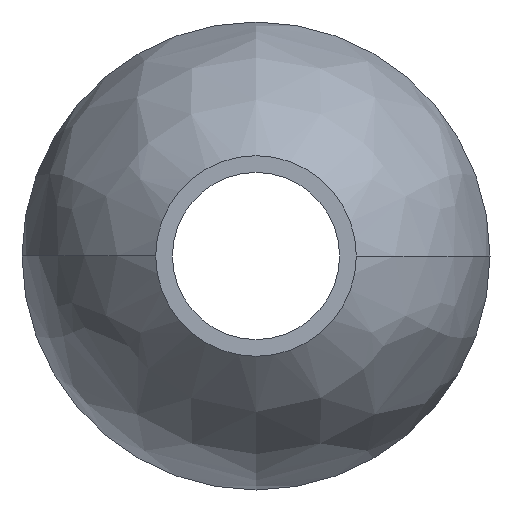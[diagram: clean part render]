
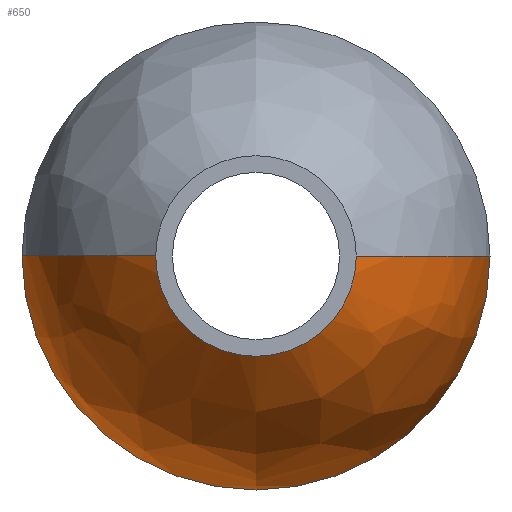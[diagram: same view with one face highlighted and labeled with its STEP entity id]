
A CAD part, front view. The second image highlights one B-rep face of the part: STEP entity #650.
In plain terms, the highlighted free-form (B-spline) face has degree [3, 3] with [5, 4] control points.
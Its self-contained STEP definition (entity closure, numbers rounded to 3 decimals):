
#7 = CARTESIAN_POINT ( 'NONE',  ( -1.4, 9.5, 0. ) ) ;
#15 = ORIENTED_EDGE ( 'NONE', *, *, #746, .F. ) ;
#22 = VERTEX_POINT ( 'NONE', #617 ) ;
#37 = CARTESIAN_POINT ( 'NONE',  ( -1.396, 9.201, 0. ) ) ;
#43 = AXIS2_PLACEMENT_3D ( 'NONE', #401, #219, #461 ) ;
#47 = DIRECTION ( 'NONE',  ( 0., 0., -1. ) ) ;
#53 = CARTESIAN_POINT ( 'NONE',  ( 0., 7.947, -0.6 ) ) ;
#55 = EDGE_CURVE ( 'NONE', #659, #482, #497, .T. ) ;
#59 = CIRCLE ( 'NONE', #598, 0.6 ) ;
#70 = CARTESIAN_POINT ( 'NONE',  ( -0.6, 7.947, 0. ) ) ;
#85 = VERTEX_POINT ( 'NONE', #489 ) ;
#94 = CARTESIAN_POINT ( 'NONE',  ( -0.6, 7.947, -1.2 ) ) ;
#96 = CARTESIAN_POINT ( 'NONE',  ( 1.396, 9.201, -2.793 ) ) ;
#127 = CARTESIAN_POINT ( 'NONE',  ( -1.25, 8.6, 0. ) ) ;
#138 = ORIENTED_EDGE ( 'NONE', *, *, #55, .T. ) ;
#152 = CARTESIAN_POINT ( 'NONE',  ( 0.6, 7.947, 0. ) ) ;
#154 = CARTESIAN_POINT ( 'NONE',  ( -1.4, 9.5, 0. ) ) ;
#207 = CARTESIAN_POINT ( 'NONE',  ( 1.4, 9.5, 0. ) ) ;
#214 = CARTESIAN_POINT ( 'NONE',  ( -0.846, 8.119, -1.691 ) ) ;
#216 = CARTESIAN_POINT ( 'NONE',  ( 1.4, 9.5, -2.8 ) ) ;
#219 = DIRECTION ( 'NONE',  ( 0., -1., 0. ) ) ;
#231 = CARTESIAN_POINT ( 'NONE',  ( 1.25, 8.6, 0. ) ) ;
#261 = AXIS2_PLACEMENT_3D ( 'NONE', #266, #734, #320 ) ;
#266 = CARTESIAN_POINT ( 'NONE',  ( 0., 7.947, 0. ) ) ;
#275 = CARTESIAN_POINT ( 'NONE',  ( 0.846, 8.119, 0. ) ) ;
#287 = CARTESIAN_POINT ( 'NONE',  ( 0., 9.5, -1.4 ) ) ;
#320 = DIRECTION ( 'NONE',  ( 0., 0., -1. ) ) ;
#333 = CARTESIAN_POINT ( 'NONE',  ( -1.25, 8.6, -2.499 ) ) ;
#334 = DIRECTION ( 'NONE',  ( 0., -1., 0. ) ) ;
#353 = FACE_OUTER_BOUND ( 'NONE', #683, .T. ) ;
#374 = CARTESIAN_POINT ( 'NONE',  ( -0.846, 8.119, 0. ) ) ;
#395 = EDGE_CURVE ( 'NONE', #659, #674, #417, .T. ) ;
#397 = CARTESIAN_POINT ( 'NONE',  ( 1.25, 8.6, 0. ) ) ;
#399 = ORIENTED_EDGE ( 'NONE', *, *, #395, .F. ) ;
#401 = CARTESIAN_POINT ( 'NONE',  ( 0., 9.5, 0. ) ) ;
#406 = CARTESIAN_POINT ( 'NONE',  ( 0.6, 7.947, 0. ) ) ;
#407 = DIRECTION ( 'NONE',  ( 0., -1., 0. ) ) ;
#417 = CIRCLE ( 'NONE', #261, 0.6 ) ;
#418 = VERTEX_POINT ( 'NONE', #287 ) ;
#433 = CARTESIAN_POINT ( 'NONE',  ( -1.396, 9.201, 0. ) ) ;
#439 = B_SPLINE_CURVE_WITH_KNOTS ( 'NONE', 3,
 ( #406, #580, #231, #648, #207 ),
 .UNSPECIFIED., .F., .F.,
 ( 4, 1, 4 ),
 ( -0.001, 0.485, 0.971 ),
 .UNSPECIFIED. ) ;
#453 = CARTESIAN_POINT ( 'NONE',  ( -0.6, 7.947, 0. ) ) ;
#455 = CARTESIAN_POINT ( 'NONE',  ( -1.396, 9.201, -2.793 ) ) ;
#458 = CARTESIAN_POINT ( 'NONE',  ( -0.6, 7.947, 0. ) ) ;
#461 = DIRECTION ( 'NONE',  ( 0., 0., -1. ) ) ;
#464 = ORIENTED_EDGE ( 'NONE', *, *, #474, .T. ) ;
#474 = EDGE_CURVE ( 'NONE', #482, #418, #490, .T. ) ;
#482 = VERTEX_POINT ( 'NONE', #637 ) ;
#489 = CARTESIAN_POINT ( 'NONE',  ( 0.6, 7.947, 0. ) ) ;
#490 = CIRCLE ( 'NONE', #732, 1.4 ) ;
#497 = B_SPLINE_CURVE_WITH_KNOTS ( 'NONE', 3,
 ( #70, #374, #127, #433, #7 ),
 .UNSPECIFIED., .F., .F.,
 ( 4, 1, 4 ),
 ( -0.001, 0.485, 0.971 ),
 .UNSPECIFIED. ) ;
#515 = CARTESIAN_POINT ( 'NONE',  ( 0.6, 7.947, -1.2 ) ) ;
#516 = EDGE_CURVE ( 'NONE', #418, #22, #656, .T. ) ;
#519 = CARTESIAN_POINT ( 'NONE',  ( 1.396, 9.201, 0. ) ) ;
#553 = ORIENTED_EDGE ( 'NONE', *, *, #555, .F. ) ;
#555 = EDGE_CURVE ( 'NONE', #85, #22, #439, .T. ) ;
#578 = CARTESIAN_POINT ( 'NONE',  ( -0.846, 8.119, 0. ) ) ;
#580 = CARTESIAN_POINT ( 'NONE',  ( 0.846, 8.119, 0. ) ) ;
#582 = CARTESIAN_POINT ( 'NONE',  ( -1.4, 9.5, -2.8 ) ) ;
#598 = AXIS2_PLACEMENT_3D ( 'NONE', #754, #407, #47 ) ;
#617 = CARTESIAN_POINT ( 'NONE',  ( 1.4, 9.5, 0. ) ) ;
#634 = CARTESIAN_POINT ( 'NONE',  ( 0.846, 8.119, -1.691 ) ) ;
#637 = CARTESIAN_POINT ( 'NONE',  ( -1.4, 9.5, 0. ) ) ;
#638 = CARTESIAN_POINT ( 'NONE',  ( 1.4, 9.5, 0. ) ) ;
#648 = CARTESIAN_POINT ( 'NONE',  ( 1.396, 9.201, 0. ) ) ;
#650 = ADVANCED_FACE ( 'NONE', ( #353 ), #737, .T. ) ;
#656 = CIRCLE ( 'NONE', #43, 1.4 ) ;
#659 = VERTEX_POINT ( 'NONE', #458 ) ;
#668 = ORIENTED_EDGE ( 'NONE', *, *, #516, .T. ) ;
#674 = VERTEX_POINT ( 'NONE', #53 ) ;
#683 = EDGE_LOOP ( 'NONE', ( #399, #138, #464, #668, #553, #15 ) ) ;
#690 = CARTESIAN_POINT ( 'NONE',  ( -1.25, 8.6, 0. ) ) ;
#691 = CARTESIAN_POINT ( 'NONE',  ( 0., 9.5, 0. ) ) ;
#732 = AXIS2_PLACEMENT_3D ( 'NONE', #691, #334, #748 ) ;
#734 = DIRECTION ( 'NONE',  ( 0., -1., 0. ) ) ;
#737 =( BOUNDED_SURFACE ( )  B_SPLINE_SURFACE ( 3, 3, ( 
 ( #453, #94, #515, #152 ),
 ( #578, #214, #634, #275 ),
 ( #690, #333, #745, #397 ),
 ( #37, #455, #96, #519 ),
 ( #154, #582, #216, #638 ) ),
 .UNSPECIFIED., .F., .F., .T. ) 
 B_SPLINE_SURFACE_WITH_KNOTS ( ( 4, 1, 4 ),
 ( 4, 4 ),
 ( -0.001, 0.485, 0.971 ),
 ( 0., 1. ),
 .UNSPECIFIED. ) 
 GEOMETRIC_REPRESENTATION_ITEM ( )  RATIONAL_B_SPLINE_SURFACE ( (
 ( 1., 0.333, 0.333, 1.),
 ( 1., 0.333, 0.333, 1.),
 ( 1., 0.333, 0.333, 1.),
 ( 1., 0.333, 0.333, 1.),
 ( 1., 0.333, 0.333, 1.) ) ) 
 REPRESENTATION_ITEM ( '' )  SURFACE ( )  );
#745 = CARTESIAN_POINT ( 'NONE',  ( 1.25, 8.6, -2.499 ) ) ;
#746 = EDGE_CURVE ( 'NONE', #674, #85, #59, .T. ) ;
#748 = DIRECTION ( 'NONE',  ( 0., 0., -1. ) ) ;
#754 = CARTESIAN_POINT ( 'NONE',  ( 0., 7.947, 0. ) ) ;
